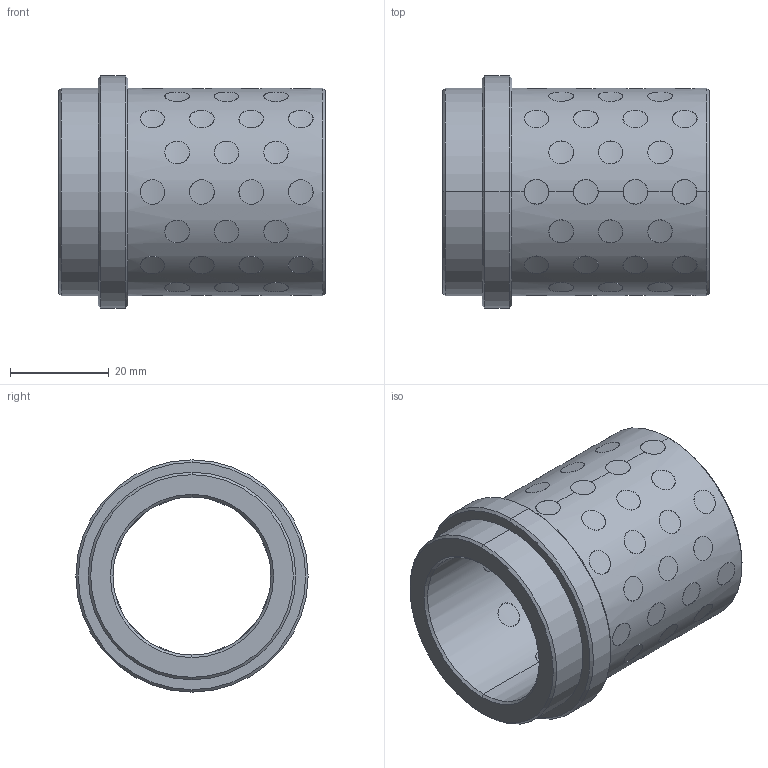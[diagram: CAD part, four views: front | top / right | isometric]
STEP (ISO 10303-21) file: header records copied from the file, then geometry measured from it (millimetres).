
FILE_DESCRIPTION((''),'2;1');
FILE_NAME('G31232046','2017-12-30T',('MANU'),(''),'PRO/ENGINEER BY PARAMETRIC TECHNOLOGY CORPORATION, 2012130','PRO/ENGINEER BY PARAMETRIC TECHNOLOGY CORPORATION, 2012130','');
FILE_SCHEMA(('CONFIG_CONTROL_DESIGN'));
Length unit declared in the file: millimetre
Products named in the file (1): G31232046
Bounding box: 54 x 47 x 47 mm (x, y, z)
Volume: 33276.7 mm3; surface area: 23035.4 mm2
Topology: 57 solids, 57 shells, 360 faces, 768 edges, 508 vertices
Faces by surface type: cylinder 344, cone 12, plane 4
Entity records: 17240 total; most frequent: CARTESIAN_POINT 10178, ORIENTED_EDGE 1536, DIRECTION 1036, EDGE_CURVE 768, VERTEX_POINT 508, B_SPLINE_CURVE_WITH_KNOTS 480, EDGE_LOOP 460, AXIS2_PLACEMENT_3D 388
